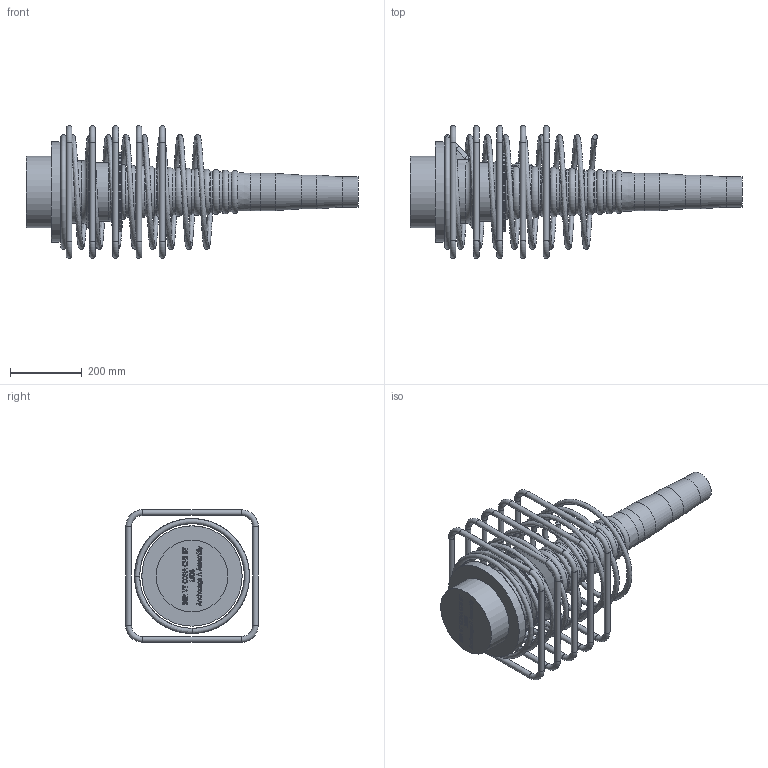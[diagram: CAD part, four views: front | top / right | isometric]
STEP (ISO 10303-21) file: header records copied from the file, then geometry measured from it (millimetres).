
FILE_DESCRIPTION(/* description */ (''),/* implementation_level */ '2;1');
FILE_NAME(/* name */ 'Z:\04 Publications\05 Give-out\BBR\6_3D_Models\BBR VT CONA CMI\BBR VT CONA CMI BT\01606\BBR VT CONA CMI BT 1606_Anchorage A Assembly_CS-34,28.stp',/* time_stamp */ '2017-05-05T09:04:47+02:00',/* author */ ('IP'),/* organization */ (''),/* preprocessor_version */ 'ST-DEVELOPER v16.1',/* originating_system */ 'Autodesk Inventor 2016',/* authorisation */ '');
FILE_SCHEMA (('AUTOMOTIVE_DESIGN { 1 0 10303 214 3 1 1 }'));
Length unit declared in the file: millimetre
Products named in the file (1): BBR VT CONA CMI BT 1606_Anchorage A Assembly_CS-34,28
Bounding box: 926.1 x 370 x 370 mm (x, y, z)
Volume: 17743700.7 mm3; surface area: 1291750.2 mm2
Topology: 7 solids, 8 shells, 780 faces, 2010 edges, 1293 vertices
Faces by surface type: plane 323, bspline 317, torus 76, cylinder 35, cone 19, sphere 10
Full cylindrical faces by diameter (mm): 16 x20, 34 x1, 57 x1, 84 x1, 94 x1, 104 x1, 164 x1, 200 x1, 218 x1, 223.017 x1, 280 x1
Entity records: 29933 total; most frequent: CARTESIAN_POINT 12743, ORIENTED_EDGE 3778, DIRECTION 2346, EDGE_CURVE 1889, VERTEX_POINT 1283, LINE 1060, VECTOR 1060, EDGE_LOOP 950
